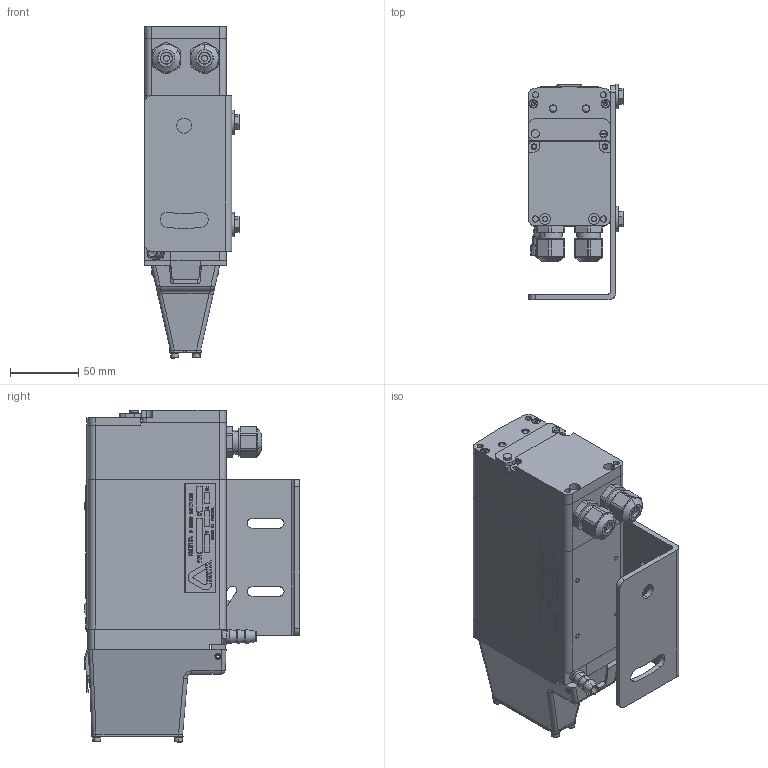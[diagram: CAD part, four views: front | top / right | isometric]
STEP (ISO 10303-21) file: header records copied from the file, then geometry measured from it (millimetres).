
FILE_DESCRIPTION (( 'STEP AP214' ), '1' );
FILE_NAME ('Z50_LB_STEP.STEP', '2020-08-28T09:30:42', ( '' ), ( '' ), 'SwSTEP 2.0', 'SolidWorks 2014', '' );
FILE_SCHEMA (( 'AUTOMOTIVE_DESIGN' ));
Length unit declared in the file: millimetre
Products named in the file (1): Z50_LB_STEP
Bounding box: 69.61 x 157.99 x 243.46 mm (x, y, z)
Surface area: 232274.6 mm2 (no closed solid volume)
Topology: 0 solids, 148 shells, 908 faces, 3777 edges, 2981 vertices
Faces by surface type: plane 415, cylinder 291, bspline 119, cone 71, torus 10, sphere 2
Entity records: 61579 total; most frequent: CARTESIAN_POINT 22106, DIRECTION 5644, ORIENTED_EDGE 5356, EDGE_CURVE 3765, VERTEX_POINT 2981, VECTOR 2052, LINE 2052, AXIS2_PLACEMENT_3D 1796
